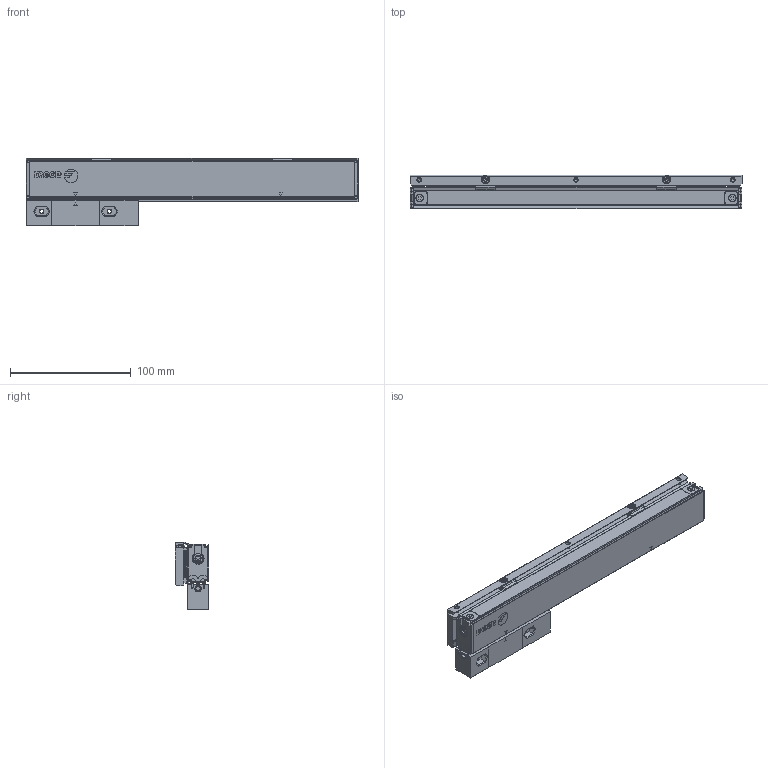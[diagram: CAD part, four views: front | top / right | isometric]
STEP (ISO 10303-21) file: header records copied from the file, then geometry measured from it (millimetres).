
FILE_DESCRIPTION(('Creo Elements/Direct Modeling STEP Export'),'2;1');
FILE_NAME('Regla SV2-170-T.stp','2015-07-07T13:03:33',(''),(''),'Creo Elements/Direct Modeling STEP processor for AP214 (Solid Model)','Creo Elements/Direct Modeling 18.1G 27-Feb-2015 (C) Parametric Technology GmbH','');
FILE_SCHEMA(('AUTOMOTIVE_DESIGN { 1 0 10303 214 1 1 1 1 }'));
Length unit declared in the file: millimetre
Products named in the file (4): CABEZA_ROSCADA_REGLA_SV2-T; SOPORTE_SV2-T; REGLA_SV2-170-T
Assembly tree (3 placements, depth 2):
  REGLA_SV2-170-T
    REGLA_SV2-170-T
    SOPORTE_SV2-T
    CABEZA_ROSCADA_REGLA_SV2-T
Bounding box: 275 x 28 x 56.2 mm (x, y, z)
Volume: 173400.4 mm3; surface area: 91555.5 mm2
Topology: 2 solids, 12 shells, 1472 faces, 4009 edges, 2599 vertices
Faces by surface type: plane 624, cylinder 584, cone 156, bspline 82, torus 18, sphere 8
Entity records: 59413 total; most frequent: CARTESIAN_POINT 17702, ORIENTED_EDGE 7982, DIRECTION 6727, EDGE_CURVE 3983, VERTEX_POINT 2599, AXIS2_PLACEMENT_3D 2289, VECTOR 2149, LINE 2149
